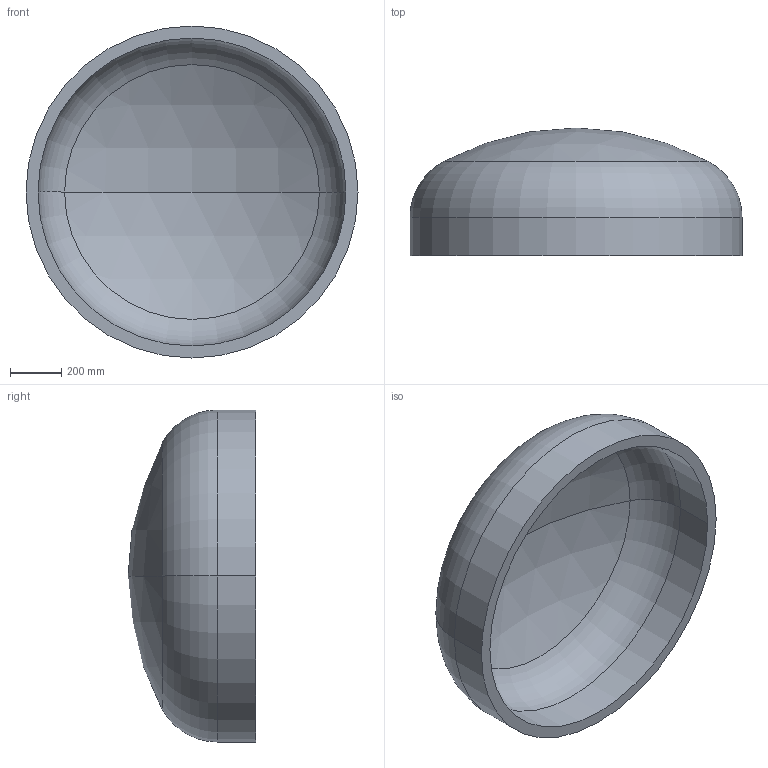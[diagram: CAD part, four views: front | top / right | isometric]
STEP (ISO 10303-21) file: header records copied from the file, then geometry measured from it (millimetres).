
FILE_DESCRIPTION (( 'STEP AP203' ), '1' );
FILE_NAME ('DIN 28013 Korbbogenform_-_Boden DIN 28013 - 1300 x 150 - I - s=47.step', '2016-07-01T09:53:38', ( '' ), ( '' ), 'SwSTEP 2.0', 'SolidWorks 2013', '' );
FILE_SCHEMA (( 'CONFIG_CONTROL_DESIGN' ));
Length unit declared in the file: millimetre
Products named in the file (1): DIN 28013 Korbbogenform_-_Boden DIN 28013 - 1300 x 150 - I - s=47
Bounding box: 1300 x 499.99 x 1300 mm (x, y, z)
Volume: 110169905.5 mm3; surface area: 4877718 mm2
Topology: 1 solids, 1 shells, 13 faces, 24 edges, 14 vertices
Faces by surface type: torus 4, cylinder 4, sphere 4, plane 1
Entity records: 407 total; most frequent: DIRECTION 72, CARTESIAN_POINT 52, ORIENTED_EDGE 48, AXIS2_PLACEMENT_3D 34, EDGE_CURVE 24, CIRCLE 20, EDGE_LOOP 14, VERTEX_POINT 14
